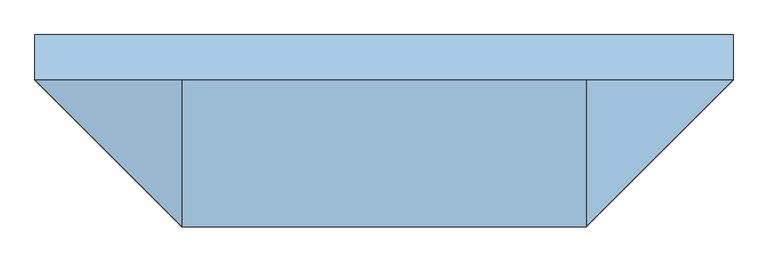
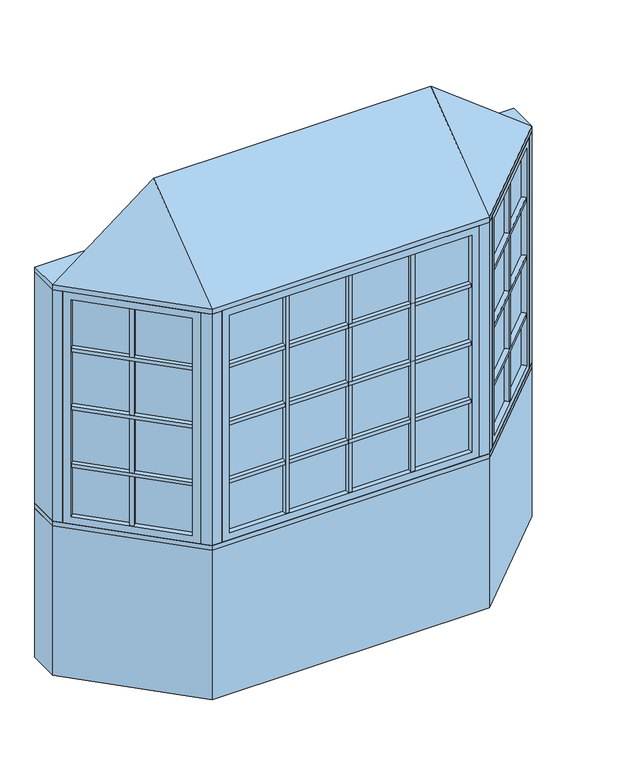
"""IFC4 building model written with IfcOpenShell, lengths in millimetres: window geometry, Pollard_Windows_Tudor Casement Bows and Bays : AML-BAY 45 AFR0612-12-600_GC."""

import ifcopenshell
import ifcopenshell.guid

model = None  # the IFC model being written
_history = None  # IfcOwnerHistory: only IFC2X3 demands one
_inside = {}  # id of a spatial element -> (the spatial element, [elements in it])
_under = {}  # id of a project, library or spatial element -> (it, [spatial elements below it])
_declared = {}  # id of a project -> (the project, [libraries it declares])
_typed = {}  # id of a type object -> (the type object, [elements of that type])
_made_of = {}  # id of a material, layer set ... -> (it, [elements and type objects made of it])


def new_model(schema):
    """Start an empty IFC model of exactly this schema.

    Asked for "IFC4X3", IfcOpenShell would pick the latest addendum, in which some entities
    have other attributes; the version numbers below select the first issue.
    IFC2X3 requires an IfcOwnerHistory on every rooted entity: one is made here for all.
    """
    global model, _history
    if schema == "IFC4X3":
        model = ifcopenshell.file(schema_version=(4, 3, 0, 0))
    else:
        model = ifcopenshell.file(schema=schema)
    _inside.clear()
    _under.clear()
    _declared.clear()
    _typed.clear()
    _made_of.clear()
    _history = None
    if model.schema == "IFC2X3":
        org = make("IfcOrganization", Name="unknown")
        user = make(
            "IfcPersonAndOrganization",
            ThePerson=make("IfcPerson", FamilyName="unknown"),
            TheOrganization=org,
        )
        app = make(
            "IfcApplication",
            ApplicationDeveloper=org,
            Version="unknown",
            ApplicationFullName="unknown",
            ApplicationIdentifier="unknown",
        )
        _history = make(
            "IfcOwnerHistory",
            OwningUser=user,
            OwningApplication=app,
            ChangeAction="ADDED",
            CreationDate=0,
        )
    return model


def make(cls, **values):
    """One entity of the class cls with the attributes given. An attribute that is None is left unset."""
    return model.create_entity(
        cls, **{name: value for name, value in values.items() if value is not None}
    )


def rooted(cls, **values):
    """An entity with a GlobalId (a new one), such as an element, a storey or a relation."""
    return make(cls, GlobalId=ifcopenshell.guid.new(), OwnerHistory=_history, **values)


def si_unit(unit_type, name, prefix=None):
    """IfcSIUnit, for example si_unit("LENGTHUNIT", "METRE", prefix="MILLI")."""
    return make("IfcSIUnit", UnitType=unit_type, Prefix=prefix, Name=name)


def assignment(units):
    """IfcUnitAssignment: the units of a project."""
    return None if units is None else make("IfcUnitAssignment", Units=units)


def point(xyz):
    """IfcCartesianPoint."""
    return None if xyz is None else make("IfcCartesianPoint", Coordinates=xyz)


def direction(xyz):
    """IfcDirection."""
    return None if xyz is None else make("IfcDirection", DirectionRatios=xyz)


def frame(location, z_axis=None, x_axis=None):
    """IfcAxis2Placement3D, a coordinate frame: its origin and axes. An axis left out is left unset."""
    return make(
        "IfcAxis2Placement3D",
        Location=point(location),
        Axis=direction(z_axis),
        RefDirection=direction(x_axis),
    )


def origin():
    """The frame at (0, 0, 0) with its axes left unset."""
    return frame((0.0, 0.0, 0.0))


def origin_with_axes():
    """The frame at (0, 0, 0) with the z axis (0, 0, 1) and the x axis (1, 0, 0) written out."""
    return frame((0.0, 0.0, 0.0), z_axis=(0.0, 0.0, 1.0), x_axis=(1.0, 0.0, 0.0))


def place(relative_to, where):
    """IfcLocalPlacement: puts the frame where relative to a parent placement (None: the world)."""
    return make(
        "IfcLocalPlacement", PlacementRelTo=relative_to, RelativePlacement=where
    )


def context(
    kind, dimensions, precision=None, world=None, true_north=None, identifier=None
):
    """IfcGeometricRepresentationContext, for example the 3D "Model" context."""
    return make(
        "IfcGeometricRepresentationContext",
        ContextIdentifier=identifier,
        ContextType=kind,
        CoordinateSpaceDimension=dimensions,
        Precision=precision,
        WorldCoordinateSystem=world,
        TrueNorth=true_north,
    )


def project(units=None, contexts=None):
    """IfcProject with its units and contexts."""
    return rooted(
        "IfcProject",
        Name="project",
        RepresentationContexts=contexts,
        UnitsInContext=assignment(units),
    )


def spatial(cls, under=None, at=None, **own):
    """A site, building, storey or space (cls), placed at a placement, below another one or the project."""
    s = rooted(cls, ObjectPlacement=at, **own)
    if under is not None:
        _under.setdefault(under.id(), (under, []))[1].append(s)
    return s


def polyline(points):
    """IfcPolyline through the points."""
    return make("IfcPolyline", Points=[point(p) for p in points])


def outline(outer, holes=None, kind="AREA"):
    """IfcArbitraryClosedProfileDef: a profile drawn as a closed curve; with holes, ...WithVoids."""
    if holes is None:
        return make("IfcArbitraryClosedProfileDef", ProfileType=kind, OuterCurve=outer)
    return make(
        "IfcArbitraryProfileDefWithVoids",
        ProfileType=kind,
        OuterCurve=outer,
        InnerCurves=holes,
    )


def extrude(swept, where, along, depth):
    """IfcExtrudedAreaSolid: the profile swept, set in the frame where, extruded along a direction by depth."""
    return make(
        "IfcExtrudedAreaSolid",
        SweptArea=swept,
        Position=where,
        ExtrudedDirection=direction(along),
        Depth=depth,
    )


def faces_of(points, faces, orient=None, outer=None):
    """IfcFace entities. A face is a list of loops; a loop is a list of indices into points, from 0.

    orient and outer hold one flag for each loop. By default every Orientation is true, the
    first loop of a face is its IfcFaceOuterBound and the others are IfcFaceBound.
    """
    made = []
    for i, loops in enumerate(faces):
        bounds = []
        for j, loop in enumerate(loops):
            is_outer = j == 0 if outer is None else outer[i][j]
            bounds.append(
                make(
                    "IfcFaceOuterBound" if is_outer else "IfcFaceBound",
                    Bound=make("IfcPolyLoop", Polygon=[points[k] for k in loop]),
                    Orientation=True if orient is None else orient[i][j],
                )
            )
        made.append(make("IfcFace", Bounds=bounds))
    return made


def faceted_brep(points, faces, orient=None, outer=None, voids=None):
    """IfcFacetedBrep: a solid bounded by flat faces; with voids (closed shells), ...WithVoids."""
    shared = [point(p) for p in points]
    hull = make("IfcClosedShell", CfsFaces=faces_of(shared, faces, orient, outer))
    if voids is None:
        return make("IfcFacetedBrep", Outer=hull)
    return make(
        "IfcFacetedBrepWithVoids",
        Outer=hull,
        Voids=[
            make(cls, CfsFaces=faces_of(shared, fs, o, b)) for cls, fs, o, b in voids
        ],
    )


def shape(context_of_items, identifier, shape_type, items):
    """IfcShapeRepresentation: the items that make up one representation, for example the "Body"."""
    return make(
        "IfcShapeRepresentation",
        ContextOfItems=context_of_items,
        RepresentationIdentifier=identifier,
        RepresentationType=shape_type,
        Items=items,
    )


def source(mapping_origin, context_of_items, identifier, shape_type, items):
    """IfcRepresentationMap: a shape defined once, which mapped items show again and again."""
    return make(
        "IfcRepresentationMap",
        MappingOrigin=mapping_origin,
        MappedRepresentation=shape(context_of_items, identifier, shape_type, items),
    )


def transform(
    local_origin,
    x_axis=None,
    y_axis=None,
    z_axis=None,
    scale=None,
    scale2=None,
    scale3=None,
    uniform=True,
):
    """IfcCartesianTransformationOperator3D, or its non-uniform kind. x_axis, y_axis, z_axis: its Axis1, 2, 3."""
    if uniform:
        return make(
            "IfcCartesianTransformationOperator3D",
            Axis1=direction(x_axis),
            Axis2=direction(y_axis),
            LocalOrigin=point(local_origin),
            Scale=scale,
            Axis3=direction(z_axis),
        )
    return make(
        "IfcCartesianTransformationOperator3DnonUniform",
        Axis1=direction(x_axis),
        Axis2=direction(y_axis),
        LocalOrigin=point(local_origin),
        Scale=scale,
        Axis3=direction(z_axis),
        Scale2=scale2,
        Scale3=scale3,
    )


def mapped(mapping_source, mapping_target):
    """IfcMappedItem: shows the shape of a source again, moved by a transform."""
    return make(
        "IfcMappedItem", MappingSource=mapping_source, MappingTarget=mapping_target
    )


def made_of(thing, what):
    """Note that an element or type object is made of a material, layer set ...; save() writes the relation."""
    if what is not None:
        _made_of.setdefault(what.id(), (what, []))[1].append(thing)
    return thing


def element(
    cls,
    number,
    at=None,
    inside=None,
    cuts=None,
    type_object=None,
    material=None,
    context=None,
    identifier="Body",
    shape_type=None,
    held_by="IfcProductDefinitionShape",
    body=None,
    shapes=None,
    **own,
):
    """One element of the class cls, such as IfcWall. Its Tag is "e" and its number.

    at: its placement. inside: the storey or other place that contains it. cuts: it is an
    opening in that element (IfcRelVoidsElement). A single representation is given by context,
    identifier, shape_type and body (its items); several are given by shapes. held_by: the class
    of the entity that holds the representations. save() writes the other relations.
    """
    e = rooted(cls, Tag="e%d" % number, ObjectPlacement=at, **own)
    if body is not None:
        shapes = [shape(context, identifier, shape_type, body)]
    if shapes is not None:
        e.Representation = make(held_by, Representations=shapes)
    if inside is not None:
        _inside.setdefault(inside.id(), (inside, []))[1].append(e)
    if cuts is not None:
        rooted(
            "IfcRelVoidsElement", RelatingBuildingElement=cuts, RelatedOpeningElement=e
        )
    if type_object is not None:
        _typed.setdefault(type_object.id(), (type_object, []))[1].append(e)
    return made_of(e, material)


def aggregate(whole, parts):
    """IfcRelAggregates: a whole, such as a stair, and the parts it consists of."""
    return rooted("IfcRelAggregates", RelatingObject=whole, RelatedObjects=parts)


def save(model, path):
    """Write the relations noted so far, then the file.

    IfcRelAggregates (storeys below a building ...), IfcRelContainedInSpatialStructure (elements
    in a storey), IfcRelDefinesByType, IfcRelAssociatesMaterial and IfcRelDeclares: one each for
    every whole, place, type object, material and project.
    """
    for whole, parts in _under.values():
        aggregate(whole, parts)
    for where, things in _inside.values():
        rooted(
            "IfcRelContainedInSpatialStructure",
            RelatedElements=things,
            RelatingStructure=where,
        )
    for kind, things in _typed.values():
        rooted("IfcRelDefinesByType", RelatedObjects=things, RelatingType=kind)
    for what, things in _made_of.values():
        rooted("IfcRelAssociatesMaterial", RelatedObjects=things, RelatingMaterial=what)
    for by, libraries in _declared.values():
        rooted("IfcRelDeclares", RelatingContext=by, RelatedDefinitions=libraries)
    model.write(path)


def window_eaa9a0c1(model_context):
    return source(origin(), model_context, "Body", "SolidModel", [
        extrude(outline(polyline([(739.5114193, -506.9608753), (723.9550701, -491.4045261), (1101.616171, -113.7434252), (1117.1725202, -129.2997743), (739.5114193, -506.9608753)])), frame((0.0, 0.0, 1390.998), z_axis=(0.0, 0.0, 1.0), x_axis=(1.0, 0.0, 0.0)), (0.0, 0.0, 1.0), 18.0),
        extrude(outline(polyline([(720.3629677, -487.8124236), (704.8066185, -472.2560744), (1082.4677194, -94.5949735), (1098.0240686, -110.1513227), (720.3629677, -487.8124236)])), frame((0.0, 0.0, 1390.998), z_axis=(0.0, 0.0, 1.0), x_axis=(1.0, 0.0, 0.0)), (0.0, 0.0, 1.0), 18.0),
        extrude(outline(polyline([(739.5114193, -506.9608753), (723.9550701, -491.4045261), (1101.616171, -113.7434252), (1117.1725202, -129.2997743), (739.5114193, -506.9608753)])), frame((0.0, 0.0, 1090.998), z_axis=(0.0, 0.0, 1.0), x_axis=(1.0, 0.0, 0.0)), (0.0, 0.0, 1.0), 18.0),
        extrude(outline(polyline([(720.3629677, -487.8124236), (704.8066185, -472.2560744), (1082.4677194, -94.5949735), (1098.0240686, -110.1513227), (720.3629677, -487.8124236)])), frame((0.0, 0.0, 1090.998), z_axis=(0.0, 0.0, 1.0), x_axis=(1.0, 0.0, 0.0)), (0.0, 0.0, 1.0), 18.0),
        extrude(outline(polyline([(739.5114193, -506.9608753), (723.9550701, -491.4045261), (1101.616171, -113.7434252), (1117.1725202, -129.2997743), (739.5114193, -506.9608753)])), frame((0.0, 0.0, 1390.998), z_axis=(0.0, 0.0, 1.0), x_axis=(1.0, 0.0, 0.0)), (0.0, 0.0, 1.0), 18.0),
        extrude(outline(polyline([(720.3629677, -487.8124236), (704.8066185, -472.2560744), (1082.4677194, -94.5949735), (1098.0240686, -110.1513227), (720.3629677, -487.8124236)])), frame((0.0, 0.0, 1390.998), z_axis=(0.0, 0.0, 1.0), x_axis=(1.0, 0.0, 0.0)), (0.0, 0.0, 1.0), 18.0),
        extrude(outline(polyline([(739.5114193, -506.9608753), (723.9550701, -491.4045261), (1101.616171, -113.7434252), (1117.1725202, -129.2997743), (739.5114193, -506.9608753)])), frame((0.0, 0.0, 1390.998), z_axis=(0.0, 0.0, 1.0), x_axis=(1.0, 0.0, 0.0)), (0.0, 0.0, 1.0), 18.0),
        extrude(outline(polyline([(720.3629677, -487.8124236), (704.8066185, -472.2560744), (1082.4677194, -94.5949735), (1098.0240686, -110.1513227), (720.3629677, -487.8124236)])), frame((0.0, 0.0, 1390.998), z_axis=(0.0, 0.0, 1.0), x_axis=(1.0, 0.0, 0.0)), (0.0, 0.0, 1.0), 18.0),
        extrude(outline(polyline([(739.5114193, -506.9608753), (723.9550701, -491.4045261), (1101.616171, -113.7434252), (1117.1725202, -129.2997743), (739.5114193, -506.9608753)])), frame((0.0, 0.0, 1690.998), z_axis=(0.0, 0.0, 1.0), x_axis=(1.0, 0.0, 0.0)), (0.0, 0.0, 1.0), 18.0),
        extrude(outline(polyline([(720.3629677, -487.8124236), (704.8066185, -472.2560744), (1082.4677194, -94.5949735), (1098.0240686, -110.1513227), (720.3629677, -487.8124236)])), frame((0.0, 0.0, 1690.998), z_axis=(0.0, 0.0, 1.0), x_axis=(1.0, 0.0, 0.0)), (0.0, 0.0, 1.0), 18.0),
        extrude(outline(polyline([(919.1495816, -296.2100146), (934.7059308, -311.7663638), (921.9780087, -324.4942858), (906.4216595, -308.9379366), (919.1495816, -296.2100146)])), frame((0.0, 0.0, 835.8628), z_axis=(0.0, 0.0, 1.0), x_axis=(1.0, 0.0, 0.0)), (0.0, 0.0, 1.0), 1128.2704),
        extrude(outline(polyline([(915.5574791, -292.6179121), (902.8295571, -305.3458342), (887.2732079, -289.789485), (900.00113, -277.0615629), (915.5574791, -292.6179121)])), frame((0.0, 0.0, 835.8628), z_axis=(0.0, 0.0, 1.0), x_axis=(1.0, 0.0, 0.0)), (0.0, 0.0, 1.0), 1128.2704),
        extrude(outline(polyline([(1110.5964271, -104.763169), (714.974814, -500.3847822), (711.3827115, -496.7926797), (1107.0043247, -101.1710666), (1110.5964271, -104.763169)])), frame((0.0, 0.0, 823.1628), z_axis=(0.0, 0.0, 1.0), x_axis=(1.0, 0.0, 0.0)), (0.0, 0.0, 1.0), 1153.6704),
        faceted_brep([(1101.616171, -113.7434252, 835.8628), (1119.5766833, -131.7039374, 835.8628), (1119.5766833, -131.7039374, 1964.1332), (1101.616171, -113.7434252, 1964.1332), (1107.0043247, -101.1710666, 823.1628), (1110.5964271, -104.763169, 823.1628), (1110.5964271, -104.763169, 1976.8332), (1107.0043247, -101.1710666, 1976.8332), (1080.0635563, -92.1908105, 835.8628), (1098.0240686, -110.1513227, 835.8628), (1098.0240686, -110.1513227, 1964.1332), (1080.0635563, -92.1908105, 1964.1332), (1144.9369265, -106.3436941, 799.998), (1105.4237996, -66.8305672, 799.998), (1105.4237996, -66.8305672, 1999.998), (1144.9369265, -106.3436941, 1999.998), (741.9155823, -509.3650383, 1964.1332), (723.9550701, -491.4045261, 1964.1332), (714.974814, -500.3847822, 1976.8332), (711.3827115, -496.7926797, 1976.8332), (720.3629677, -487.8124236, 1964.1332), (702.4024554, -469.8519114, 1964.1332), (677.0422121, -495.2121547, 1999.998), (716.5553391, -534.7252816, 1999.998), (741.9155823, -509.3650383, 835.8628), (723.9550701, -491.4045261, 835.8628), (714.974814, -500.3847822, 823.1628), (711.3827115, -496.7926797, 823.1628), (720.3629677, -487.8124236, 835.8628), (702.4024554, -469.8519114, 835.8628), (677.0422121, -495.2121547, 799.998), (716.5553391, -534.7252816, 799.998)], [[[0, 1, 2, 3]], [[4, 5, 6, 7]], [[8, 9, 10, 11]], [[12, 13, 14, 15]], [[3, 2, 16, 17]], [[7, 6, 18, 19]], [[11, 10, 20, 21]], [[15, 14, 22, 23]], [[17, 16, 24, 25]], [[19, 18, 26, 27]], [[21, 20, 28, 29]], [[23, 22, 30, 31]], [[25, 24, 1, 0]], [[5, 26, 18, 6], [3, 17, 25, 0]], [[27, 26, 5, 4]], [[7, 19, 27, 4], [9, 28, 20, 10]], [[29, 28, 9, 8]], [[13, 30, 22, 14], [11, 21, 29, 8]], [[31, 30, 13, 12]], [[15, 23, 31, 12], [1, 24, 16, 2]]]),
        extrude(outline(polyline([(317.5177, -544.6806207), (317.5177, -566.6806207), (299.5177, -566.6806207), (299.5177, -544.6806207), (317.5177, -544.6806207)])), frame((0.0, 0.0, 835.8628), z_axis=(0.0, 0.0, 1.0), x_axis=(1.0, 0.0, 0.0)), (0.0, 0.0, 1.0), 1128.2704),
        extrude(outline(polyline([(317.5177, -539.6006207), (299.5177, -539.6006207), (299.5177, -517.6006207), (317.5177, -517.6006207), (317.5177, -539.6006207)])), frame((0.0, 0.0, 835.8628), z_axis=(0.0, 0.0, 1.0), x_axis=(1.0, 0.0, 0.0)), (0.0, 0.0, 1.0), 1128.2704),
        extrude(outline(polyline([(-299.5177, -544.6806207), (-299.5177, -566.6806207), (-317.5177, -566.6806207), (-317.5177, -544.6806207), (-299.5177, -544.6806207)])), frame((0.0, 0.0, 835.8628), z_axis=(0.0, 0.0, 1.0), x_axis=(1.0, 0.0, 0.0)), (0.0, 0.0, 1.0), 1128.2704),
        extrude(outline(polyline([(-299.5177, -539.6006207), (-317.5177, -539.6006207), (-317.5177, -517.6006207), (-299.5177, -517.6006207), (-299.5177, -539.6006207)])), frame((0.0, 0.0, 835.8628), z_axis=(0.0, 0.0, 1.0), x_axis=(1.0, 0.0, 0.0)), (0.0, 0.0, 1.0), 1128.2704),
        extrude(outline(polyline([(-595.3352, -566.6806207), (-595.3352, -544.6806207), (595.3352, -544.6806207), (595.3352, -566.6806207), (-595.3352, -566.6806207)])), frame((0.0, 0.0, 1090.998), z_axis=(0.0, 0.0, 1.0), x_axis=(1.0, 0.0, 0.0)), (0.0, 0.0, 1.0), 18.0),
        extrude(outline(polyline([(-595.3352, -539.6006207), (-595.3352, -517.6006207), (595.3352, -517.6006207), (595.3352, -539.6006207), (-595.3352, -539.6006207)])), frame((0.0, 0.0, 1090.998), z_axis=(0.0, 0.0, 1.0), x_axis=(1.0, 0.0, 0.0)), (0.0, 0.0, 1.0), 18.0),
        extrude(outline(polyline([(-595.3352, -566.6806207), (-595.3352, -544.6806207), (595.3352, -544.6806207), (595.3352, -566.6806207), (-595.3352, -566.6806207)])), frame((0.0, 0.0, 1390.998), z_axis=(0.0, 0.0, 1.0), x_axis=(1.0, 0.0, 0.0)), (0.0, 0.0, 1.0), 18.0),
        extrude(outline(polyline([(-595.3352, -539.6006207), (-595.3352, -517.6006207), (595.3352, -517.6006207), (595.3352, -539.6006207), (-595.3352, -539.6006207)])), frame((0.0, 0.0, 1390.998), z_axis=(0.0, 0.0, 1.0), x_axis=(1.0, 0.0, 0.0)), (0.0, 0.0, 1.0), 18.0),
        extrude(outline(polyline([(-595.3352, -566.6806207), (-595.3352, -544.6806207), (595.3352, -544.6806207), (595.3352, -566.6806207), (-595.3352, -566.6806207)])), frame((0.0, 0.0, 1390.998), z_axis=(0.0, 0.0, 1.0), x_axis=(1.0, 0.0, 0.0)), (0.0, 0.0, 1.0), 18.0),
        extrude(outline(polyline([(-595.3352, -539.6006207), (-595.3352, -517.6006207), (595.3352, -517.6006207), (595.3352, -539.6006207), (-595.3352, -539.6006207)])), frame((0.0, 0.0, 1390.998), z_axis=(0.0, 0.0, 1.0), x_axis=(1.0, 0.0, 0.0)), (0.0, 0.0, 1.0), 18.0),
        extrude(outline(polyline([(-595.3352, -566.6806207), (-595.3352, -544.6806207), (595.3352, -544.6806207), (595.3352, -566.6806207), (-595.3352, -566.6806207)])), frame((0.0, 0.0, 1390.998), z_axis=(0.0, 0.0, 1.0), x_axis=(1.0, 0.0, 0.0)), (0.0, 0.0, 1.0), 18.0),
        extrude(outline(polyline([(-595.3352, -539.6006207), (-595.3352, -517.6006207), (595.3352, -517.6006207), (595.3352, -539.6006207), (-595.3352, -539.6006207)])), frame((0.0, 0.0, 1390.998), z_axis=(0.0, 0.0, 1.0), x_axis=(1.0, 0.0, 0.0)), (0.0, 0.0, 1.0), 18.0),
        extrude(outline(polyline([(-1117.1725202, -129.2997743), (-1101.616171, -113.7434252), (-723.9550701, -491.4045261), (-739.5114193, -506.9608753), (-1117.1725202, -129.2997743)])), frame((0.0, 0.0, 1090.998), z_axis=(0.0, 0.0, 1.0), x_axis=(1.0, 0.0, 0.0)), (0.0, 0.0, 1.0), 18.0),
        extrude(outline(polyline([(-1098.0240686, -110.1513227), (-1082.4677194, -94.5949735), (-704.8066185, -472.2560744), (-720.3629677, -487.8124236), (-1098.0240686, -110.1513227)])), frame((0.0, 0.0, 1090.998), z_axis=(0.0, 0.0, 1.0), x_axis=(1.0, 0.0, 0.0)), (0.0, 0.0, 1.0), 18.0),
        extrude(outline(polyline([(-1117.1725202, -129.2997743), (-1101.616171, -113.7434252), (-723.9550701, -491.4045261), (-739.5114193, -506.9608753), (-1117.1725202, -129.2997743)])), frame((0.0, 0.0, 1390.998), z_axis=(0.0, 0.0, 1.0), x_axis=(1.0, 0.0, 0.0)), (0.0, 0.0, 1.0), 18.0),
        extrude(outline(polyline([(-1098.0240686, -110.1513227), (-1082.4677194, -94.5949735), (-704.8066185, -472.2560744), (-720.3629677, -487.8124236), (-1098.0240686, -110.1513227)])), frame((0.0, 0.0, 1390.998), z_axis=(0.0, 0.0, 1.0), x_axis=(1.0, 0.0, 0.0)), (0.0, 0.0, 1.0), 18.0),
        extrude(outline(polyline([(-1117.1725202, -129.2997743), (-1101.616171, -113.7434252), (-723.9550701, -491.4045261), (-739.5114193, -506.9608753), (-1117.1725202, -129.2997743)])), frame((0.0, 0.0, 1390.998), z_axis=(0.0, 0.0, 1.0), x_axis=(1.0, 0.0, 0.0)), (0.0, 0.0, 1.0), 18.0),
        extrude(outline(polyline([(-1098.0240686, -110.1513227), (-1082.4677194, -94.5949735), (-704.8066185, -472.2560744), (-720.3629677, -487.8124236), (-1098.0240686, -110.1513227)])), frame((0.0, 0.0, 1390.998), z_axis=(0.0, 0.0, 1.0), x_axis=(1.0, 0.0, 0.0)), (0.0, 0.0, 1.0), 18.0),
        extrude(outline(polyline([(-1117.1725202, -129.2997743), (-1101.616171, -113.7434252), (-723.9550701, -491.4045261), (-739.5114193, -506.9608753), (-1117.1725202, -129.2997743)])), frame((0.0, 0.0, 1390.998), z_axis=(0.0, 0.0, 1.0), x_axis=(1.0, 0.0, 0.0)), (0.0, 0.0, 1.0), 18.0),
        extrude(outline(polyline([(-1098.0240686, -110.1513227), (-1082.4677194, -94.5949735), (-704.8066185, -472.2560744), (-720.3629677, -487.8124236), (-1098.0240686, -110.1513227)])), frame((0.0, 0.0, 1390.998), z_axis=(0.0, 0.0, 1.0), x_axis=(1.0, 0.0, 0.0)), (0.0, 0.0, 1.0), 18.0),
        extrude(outline(polyline([(-1117.1725202, -129.2997743), (-1101.616171, -113.7434252), (-723.9550701, -491.4045261), (-739.5114193, -506.9608753), (-1117.1725202, -129.2997743)])), frame((0.0, 0.0, 1690.998), z_axis=(0.0, 0.0, 1.0), x_axis=(1.0, 0.0, 0.0)), (0.0, 0.0, 1.0), 18.0),
        extrude(outline(polyline([(-1098.0240686, -110.1513227), (-1082.4677194, -94.5949735), (-704.8066185, -472.2560744), (-720.3629677, -487.8124236), (-1098.0240686, -110.1513227)])), frame((0.0, 0.0, 1690.998), z_axis=(0.0, 0.0, 1.0), x_axis=(1.0, 0.0, 0.0)), (0.0, 0.0, 1.0), 18.0),
        extrude(outline(polyline([(-595.3352, -566.6806207), (-595.3352, -544.6806207), (595.3352, -544.6806207), (595.3352, -566.6806207), (-595.3352, -566.6806207)])), frame((0.0, 0.0, 1690.998), z_axis=(0.0, 0.0, 1.0), x_axis=(1.0, 0.0, 0.0)), (0.0, 0.0, 1.0), 18.0),
        extrude(outline(polyline([(-595.3352, -539.6006207), (-595.3352, -517.6006207), (595.3352, -517.6006207), (595.3352, -539.6006207), (-595.3352, -539.6006207)])), frame((0.0, 0.0, 1690.998), z_axis=(0.0, 0.0, 1.0), x_axis=(1.0, 0.0, 0.0)), (0.0, 0.0, 1.0), 18.0),
        extrude(outline(polyline([(-906.4216595, -308.9379366), (-921.9780087, -324.4942858), (-934.7059308, -311.7663638), (-919.1495816, -296.2100146), (-906.4216595, -308.9379366)])), frame((0.0, 0.0, 835.8628), z_axis=(0.0, 0.0, 1.0), x_axis=(1.0, 0.0, 0.0)), (0.0, 0.0, 1.0), 1128.2704),
        extrude(outline(polyline([(-902.8295571, -305.3458342), (-915.5574791, -292.6179121), (-900.00113, -277.0615629), (-887.2732079, -289.789485), (-902.8295571, -305.3458342)])), frame((0.0, 0.0, 835.8628), z_axis=(0.0, 0.0, 1.0), x_axis=(1.0, 0.0, 0.0)), (0.0, 0.0, 1.0), 1128.2704),
        extrude(outline(polyline([(9.0, -544.6806207), (9.0, -566.6806207), (-9.0, -566.6806207), (-9.0, -544.6806207), (9.0, -544.6806207)])), frame((0.0, 0.0, 835.8628), z_axis=(0.0, 0.0, 1.0), x_axis=(1.0, 0.0, 0.0)), (0.0, 0.0, 1.0), 1128.2704),
        extrude(outline(polyline([(9.0, -539.6006207), (-9.0, -539.6006207), (-9.0, -517.6006207), (9.0, -517.6006207), (9.0, -539.6006207)])), frame((0.0, 0.0, 835.8628), z_axis=(0.0, 0.0, 1.0), x_axis=(1.0, 0.0, 0.0)), (0.0, 0.0, 1.0), 1128.2704),
        extrude(outline(polyline([(-714.974814, -500.3847822), (-1110.5964271, -104.763169), (-1107.0043247, -101.1710666), (-711.3827115, -496.7926797), (-714.974814, -500.3847822)])), frame((0.0, 0.0, 823.1628), z_axis=(0.0, 0.0, 1.0), x_axis=(1.0, 0.0, 0.0)), (0.0, 0.0, 1.0), 1153.6704),
        faceted_brep([(-720.3629677, -487.8124236, 1964.1332), (-702.4024554, -469.8519114, 1964.1332), (-702.4024554, -469.8519114, 835.8628), (-720.3629677, -487.8124236, 835.8628), (-714.974814, -500.3847822, 1976.8332), (-711.3827115, -496.7926797, 1976.8332), (-711.3827115, -496.7926797, 823.1628), (-714.974814, -500.3847822, 823.1628), (-741.9155823, -509.3650383, 1964.1332), (-723.9550701, -491.4045261, 1964.1332), (-723.9550701, -491.4045261, 835.8628), (-741.9155823, -509.3650383, 835.8628), (-677.0422121, -495.2121547, 1999.998), (-716.5553391, -534.7252816, 1999.998), (-716.5553391, -534.7252816, 799.998), (-677.0422121, -495.2121547, 799.998), (-1080.0635563, -92.1908105, 835.8628), (-1098.0240686, -110.1513227, 835.8628), (-1107.0043247, -101.1710666, 823.1628), (-1110.5964271, -104.763169, 823.1628), (-1101.616171, -113.7434252, 835.8628), (-1119.5766833, -131.7039374, 835.8628), (-1144.9369265, -106.3436941, 799.998), (-1105.4237996, -66.8305672, 799.998), (-1080.0635563, -92.1908105, 1964.1332), (-1098.0240686, -110.1513227, 1964.1332), (-1107.0043247, -101.1710666, 1976.8332), (-1110.5964271, -104.763169, 1976.8332), (-1101.616171, -113.7434252, 1964.1332), (-1119.5766833, -131.7039374, 1964.1332), (-1144.9369265, -106.3436941, 1999.998), (-1105.4237996, -66.8305672, 1999.998)], [[[0, 1, 2, 3]], [[4, 5, 6, 7]], [[8, 9, 10, 11]], [[12, 13, 14, 15]], [[3, 2, 16, 17]], [[7, 6, 18, 19]], [[11, 10, 20, 21]], [[15, 14, 22, 23]], [[17, 16, 24, 25]], [[19, 18, 26, 27]], [[21, 20, 28, 29]], [[23, 22, 30, 31]], [[15, 23, 31, 12], [1, 24, 16, 2]], [[25, 24, 1, 0]], [[5, 26, 18, 6], [3, 17, 25, 0]], [[27, 26, 5, 4]], [[7, 19, 27, 4], [9, 28, 20, 10]], [[29, 28, 9, 8]], [[13, 30, 22, 14], [11, 21, 29, 8]], [[31, 30, 13, 12]]]),
        extrude(outline(polyline([(608.0352, -544.6806207), (-608.0352, -544.6806207), (-608.0352, -539.6006207), (608.0352, -539.6006207), (608.0352, -544.6806207)])), frame((0.0, 0.0, 823.1628), z_axis=(0.0, 0.0, 1.0), x_axis=(1.0, 0.0, 0.0)), (0.0, 0.0, 1.0), 1153.6704),
        faceted_brep([(595.3352, -544.6806207, 835.8628), (595.3352, -570.0806207, 835.8628), (595.3352, -570.0806207, 1964.1332), (595.3352, -544.6806207, 1964.1332), (608.0352, -539.6006207, 823.1628), (608.0352, -544.6806207, 823.1628), (608.0352, -544.6806207, 1976.8332), (608.0352, -539.6006207, 1976.8332), (595.3352, -514.2006207, 835.8628), (595.3352, -539.6006207, 835.8628), (595.3352, -539.6006207, 1964.1332), (595.3352, -514.2006207, 1964.1332), (631.2, -570.0806207, 799.998), (631.2, -514.2006207, 799.998), (631.2, -514.2006207, 1999.998), (631.2, -570.0806207, 1999.998), (-595.3352, -570.0806207, 1964.1332), (-595.3352, -544.6806207, 1964.1332), (-608.0352, -544.6806207, 1976.8332), (-608.0352, -539.6006207, 1976.8332), (-595.3352, -539.6006207, 1964.1332), (-595.3352, -514.2006207, 1964.1332), (-631.2, -514.2006207, 1999.998), (-631.2, -570.0806207, 1999.998), (-595.3352, -570.0806207, 835.8628), (-595.3352, -544.6806207, 835.8628), (-608.0352, -544.6806207, 823.1628), (-608.0352, -539.6006207, 823.1628), (-595.3352, -539.6006207, 835.8628), (-595.3352, -514.2006207, 835.8628), (-631.2, -514.2006207, 799.998), (-631.2, -570.0806207, 799.998)], [[[0, 1, 2, 3]], [[4, 5, 6, 7]], [[8, 9, 10, 11]], [[12, 13, 14, 15]], [[3, 2, 16, 17]], [[7, 6, 18, 19]], [[11, 10, 20, 21]], [[15, 14, 22, 23]], [[17, 16, 24, 25]], [[19, 18, 26, 27]], [[21, 20, 28, 29]], [[23, 22, 30, 31]], [[15, 23, 31, 12], [1, 24, 16, 2]], [[25, 24, 1, 0]], [[5, 26, 18, 6], [3, 17, 25, 0]], [[27, 26, 5, 4]], [[7, 19, 27, 4], [9, 28, 20, 10]], [[29, 28, 9, 8]], [[13, 30, 22, 14], [11, 21, 29, 8]], [[31, 30, 13, 12]]]),
        faceted_brep([(1176.5, -74.7806207, 2025.398), (681.2, -570.0806207, 2025.398), (-681.2, -570.0806207, 2025.398), (-1176.5, -74.7806207, 2025.398), (-681.2, -74.7806207, 2406.398), (681.2, -74.7806207, 2406.398)], [[[0, 1, 2, 3]], [[3, 2, 4]], [[2, 1, 5, 4]], [[1, 0, 5]], [[0, 3, 4, 5]]]),
        extrude(outline(polyline([(-1176.5, 77.6193793), (1176.5, 77.6193793), (1176.5, -74.7806207), (681.2, -570.0806207), (-681.2, -570.0806207), (-1176.5, -74.7806207), (-1176.5, 77.6193793)])), frame((0.0, 0.0, 1999.998), z_axis=(0.0, 0.0, 1.0), x_axis=(1.0, 0.0, 0.0)), (0.0, 0.0, 1.0), 25.4),
        extrude(outline(polyline([(-1176.5, -74.7806207), (-1176.5, 77.6193793), (-1113.3738531, 77.6193793), (-1113.3738531, -74.7806207), (-1144.9369265, -106.3436941), (-1176.5, -74.7806207)])), frame((0.0, 0.0, 799.998), z_axis=(0.0, 0.0, 1.0), x_axis=(1.0, 0.0, 0.0)), (0.0, 0.0, 1.0), 1200.0),
        extrude(outline(polyline([(1176.5, 77.6193793), (1176.5, -74.7806207), (1144.9369265, -106.3436941), (1113.3738531, -74.7806207), (1113.3738531, 77.6193793), (1176.5, 77.6193793)])), frame((0.0, 0.0, 799.998), z_axis=(0.0, 0.0, 1.0), x_axis=(1.0, 0.0, 0.0)), (0.0, 0.0, 1.0), 1200.0),
        extrude(outline(polyline([(681.2, -570.0806207), (631.2, -570.0806207), (631.2, -520.0806207), (660.4893219, -520.0806207), (681.2, -499.3699425), (716.5553391, -534.7252816), (681.2, -570.0806207)])), frame((0.0, 0.0, 799.998), z_axis=(0.0, 0.0, 1.0), x_axis=(1.0, 0.0, 0.0)), (0.0, 0.0, 1.0), 1200.0),
        extrude(outline(polyline([(-681.2, -570.0806207), (-716.5553391, -534.7252816), (-681.2, -499.3699425), (-660.4893219, -520.0806207), (-631.2, -520.0806207), (-631.2, -570.0806207), (-681.2, -570.0806207)])), frame((0.0, 0.0, 799.998), z_axis=(0.0, 0.0, 1.0), x_axis=(1.0, 0.0, 0.0)), (0.0, 0.0, 1.0), 1200.0),
        extrude(outline(polyline([(-681.2, -570.0806207), (-1176.5, -74.7806207), (-1176.5, 77.6193793), (-1113.3738531, 77.6193793), (-618.0738531, -417.6806207), (618.0738531, -417.6806207), (1113.3738531, 77.6193793), (1176.5, 77.6193793), (1176.5, -74.7806207), (681.2, -570.0806207), (-681.2, -570.0806207)])), frame((0.0, 0.0, 774.598), z_axis=(0.0, 0.0, 1.0), x_axis=(1.0, 0.0, 0.0)), (0.0, 0.0, 1.0), 25.4),
        extrude(outline(polyline([(-1176.5, -74.7806207), (-1176.5, 77.6193793), (-1113.3738531, 77.6193793), (-618.0738531, -417.6806207), (618.0738531, -417.6806207), (1113.3738531, 77.6193793), (1176.5, 77.6193793), (1176.5, -74.7806207), (681.2, -570.0806207), (-681.2, -570.0806207), (-1176.5, -74.7806207)])), origin_with_axes(), (0.0, 0.0, 1.0), 774.598),
    ])


if __name__ == "__main__":
    model = new_model("IFC4")
    model_context = context("Model", 3, world=origin())
    ifc_project = project(units=[si_unit("LENGTHUNIT", "METRE", prefix="MILLI")], contexts=[model_context])
    site = spatial("IfcSite", under=ifc_project)
    building = spatial("IfcBuilding", under=site)
    placement = place(None, origin())
    window_shape = window_eaa9a0c1(model_context)
    element("IfcWindow", 1, ObjectType="Pollard_Windows_Tudor Casement Bows and Bays : AML-BAY 45 AFR0612-12-600_GC", at=placement, inside=building, context=model_context, shape_type="MappedRepresentation", body=[
        mapped(window_shape, transform((0.0, 0.0, 0.0), x_axis=(1.0, 0.0, 0.0), y_axis=(0.0, 1.0, 0.0), z_axis=(0.0, 0.0, 1.0))),
    ])
    save(model, "model.ifc")
